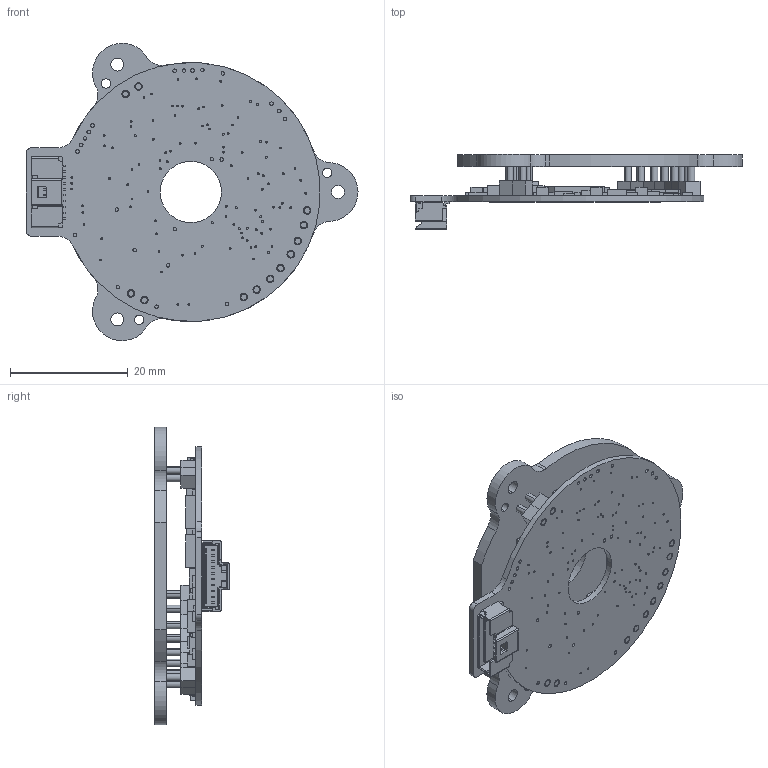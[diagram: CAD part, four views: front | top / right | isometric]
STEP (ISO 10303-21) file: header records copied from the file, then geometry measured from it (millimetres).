
FILE_DESCRIPTION (( 'STEP AP214' ), '1' );
FILE_NAME ('1020-101_Rev1-1_PR2.STEP', '2021-08-05T07:26:36', ( '' ), ( '' ), 'SwSTEP 2.0', 'SolidWorks 2021', '' );
FILE_SCHEMA (( 'AUTOMOTIVE_DESIGN' ));
Length unit declared in the file: millimetre
Products named in the file (54): Copy of 0402_R_0402 10K resistor^Copy of e_1020_revc_1020-101_Rev1-1; Copy of SOT353_R_74AHC1G04GW^Copy of e_1020_revc_1020-101_Rev1-1; Copy of 0402_R_0402 100K resistor^Copy of e_1020_revc_1020-101_Rev1-1; Copy of 0402_R_0402 330R resistor^Copy of e_1020_revc_1020-101_Rev1-1; Copy of 0402_R_0402 33p capacitor^Copy of e_1020_revc_1020-101_Rev1-1; 1020-101_Rev1-1_PR2; Copy of 0402_R_0402 3K resistor^Copy of e_1020_revc_1020-101_Rev1-1; Copy of TSOT23_LT3060ETS83.3^Copy of e_1020_revc_1020-101_Rev1-1; Copy of e_1020_revc^Copy of e_1020_revc_1020-101_Rev1-1; Copy of CSTCE_CSTCE8M00G55Z^Copy of e_1020_revc_1020-101_Rev1-1; Copy of 0603_R_0603 10n capacitor COG 5%^Copy of e_1020_revc_1020-101_Rev1-1; Copy of 0805_R_0805 2u2 50V capacitor^Copy of e_1020_revc_1020-101_Rev1-1; Copy of SOP8_R_SP3072EENL^Copy of e_1020_revc_1020-101_Rev1-1; Copy of 0402_R_0402 10n 50V capacitor^Copy of e_1020_revc_1020-101_Rev1-1; Copy of 0402_R_0402 330K resistor^Copy of e_1020_revc_1020-101_Rev1-1; Copy of LQFP48_STM32F103CBT6^Copy of e_1020_revc_1020-101_Rev1-1; Copy of 0402_R_0402 33R resistor^Copy of e_1020_revc_1020-101_Rev1-1; Copy of 0603_R_0603 10R resistor^Copy of e_1020_revc_1020-101_Rev1-1; Copy of 0805_R_0805 3k3 resistor 0.5W^Copy of e_1020_revc_1020-101_Rev1-1; Copy of SOT23_R_FDV302P^Copy of e_1020_revc_1020-101_Rev1-1; Copy of 0402_R_0402 1K resistor^Copy of e_1020_revc_1020-101_Rev1-1; Copy of 0402_R_0402 6K65 TF resistor^Copy of e_1020_revc_1020-101_Rev1-1; Copy of SOT23_R_FDV301N^Copy of e_1020_revc_1020-101_Rev1-1; Copy of 0402_R_0402 82K resistor^Copy of e_1020_revc_1020-101_Rev1-1; Copy of 0603_R_0603 2u2 10V capacitor^Copy of e_1020_revc_1020-101_Rev1-1; Copy of e_1020_revc^1020-101_Rev1-1; Copy of SOP8_R_SP3077EENL^Copy of e_1020_revc_1020-101_Rev1-1; Copy of moulding^Copy of 2 pin header assembly_1020-101_Rev1-1; 1020-102_Rev1-1; Copy of SOT323_R_BAT54CW^Copy of e_1020_revc_1020-101_Rev1-1; Copy of SOT23 5lead_AD8628ARTZR2^Copy of e_1020_revc_1020-101_Rev1-1; Copy of 0805_L_0805 1uH SIMID inductor^Copy of e_1020_revc_1020-101_Rev1-1; Copy of 2 pin header assembly^1020-101_Rev1-1; Copy of 0402_R_0402 1n 50V capacitor^Copy of e_1020_revc_1020-101_Rev1-1; Copy of 5015681007^1020-101_Rev1-1; Copy of 0402_R_0402 0R0 resistor^Copy of e_1020_revc_1020-101_Rev1-1; Copy of pin^Copy of 2 pin header assembly_1020-101_Rev1-1; Copy of 0612_0612 Quad Resistor 33R^Copy of e_1020_revc_1020-101_Rev1-1; Copy of MSOP_8EP_LT3062EMS8EAdj^Copy of e_1020_revc_1020-101_Rev1-1; Copy of 0402_R_0402 100n 50V capacitor^Copy of e_1020_revc_1020-101_Rev1-1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
Assembly tree (140 placements, depth 3):
  1020-101_Rev1-1_PR2
    1020-102_Rev1-1
    Copy of 2 pin header assembly^1020-101_Rev1-1  x6
      Copy of moulding^Copy of 2 pin header assembly_1020-101_Rev1-1
      Copy of pin^Copy of 2 pin header assembly_1020-101_Rev1-1
    Copy of e_1020_revc^1020-101_Rev1-1
      Copy of e_1020_revc^Copy of e_1020_revc_1020-101_Rev1-1
      Copy of 0805_R_0805 10u 10V capacitor^Copy of e_1020_revc_1020-101_Rev1-1  x6
      Copy of SOT23_R_FDV301N^Copy of e_1020_revc_1020-101_Rev1-1
      Copy of SOT23_R_FDV302P^Copy of e_1020_revc_1020-101_Rev1-1  x2
      Copy of 0402_R_0402 100n 50V capacitor^Copy of e_1020_revc_1020-101_Rev1-1  x18
      Copy of 0402_R_0402 33p capacitor^Copy of e_1020_revc_1020-101_Rev1-1  x8
      Copy of 0402_R_0402 1K resistor^Copy of e_1020_revc_1020-101_Rev1-1  x5
      Copy of CSTCE_CSTCE8M00G55Z^Copy of e_1020_revc_1020-101_Rev1-1
      Copy of 0402_R_0402 330R resistor^Copy of e_1020_revc_1020-101_Rev1-1
      Copy of 0402_R_0402 10n 50V capacitor^Copy of e_1020_revc_1020-101_Rev1-1  x6
      Copy of 0402_BLM15_0402 1K 200mA ferrite^Copy of e_1020_revc_1020-101_Rev1-1  x9
      Copy of 0402_R_0402 0R0 resistor^Copy of e_1020_revc_1020-101_Rev1-1  x4
      Copy of 0805_R_0805 2u2 50V capacitor^Copy of e_1020_revc_1020-101_Rev1-1  x2
      Copy of TSOT23_LT3060ETS83.3^Copy of e_1020_revc_1020-101_Rev1-1
      Copy of LQFP48_STM32F103CBT6^Copy of e_1020_revc_1020-101_Rev1-1
      Copy of SOT23 5lead_LD39015M33R^Copy of e_1020_revc_1020-101_Rev1-1  x2
      Copy of 0603_R_0603 2u2 10V capacitor^Copy of e_1020_revc_1020-101_Rev1-1  x6
      Copy of SC70 Small_SN74LVC1G3157DCKRALT^Copy of e_1020_revc_1020-101_Rev1-1  x12
      Copy of 0805_R_0805 3k3 resistor 0.5W^Copy of e_1020_revc_1020-101_Rev1-1  x2
      Copy of 0603_R_0603 200k TF resistor^Copy of e_1020_revc_1020-101_Rev1-1  x2
      Copy of 0402_R_0402 10K resistor^Copy of e_1020_revc_1020-101_Rev1-1  x2
      Copy of 0612_0612 Quad Resistor 56R^Copy of e_1020_revc_1020-101_Rev1-1
      Copy of 0402_R_0402 3K resistor^Copy of e_1020_revc_1020-101_Rev1-1
      Copy of 0402_R_0402 82K resistor^Copy of e_1020_revc_1020-101_Rev1-1
      Copy of 0612_0612 Quad Resistor 33R^Copy of e_1020_revc_1020-101_Rev1-1  x2
      Copy of 0805_L_0805 1uH SIMID inductor^Copy of e_1020_revc_1020-101_Rev1-1
      Copy of 0402_R_0402 6K65 TF resistor^Copy of e_1020_revc_1020-101_Rev1-1  x4
      Copy of SOP8_R_SP3077EENL^Copy of e_1020_revc_1020-101_Rev1-1
      Copy of SOP8_R_SP3072EENL^Copy of e_1020_revc_1020-101_Rev1-1
      Copy of 0603_R_0603 10n capacitor COG 5%^Copy of e_1020_revc_1020-101_Rev1-1
      Copy of 0603_R_0603 10n capacitor^Copy of e_1020_revc_1020-101_Rev1-1
      Copy of 0603_R_0603 10R resistor^Copy of e_1020_revc_1020-101_Rev1-1
      Copy of SOT353_R_74AHC1G04GW^Copy of e_1020_revc_1020-101_Rev1-1
      Copy of SOT323_R_BAT54CW^Copy of e_1020_revc_1020-101_Rev1-1
      Copy of 0402_R_0402 1n 50V capacitor^Copy of e_1020_revc_1020-101_Rev1-1
      Copy of TSOT23_LT3060ETS8^Copy of e_1020_revc_1020-101_Rev1-1
      Copy of SOT23 5lead_AD8628ARTZR2^Copy of e_1020_revc_1020-101_Rev1-1  x2
      Copy of 0402_R_0402 510K resistor^Copy of e_1020_revc_1020-101_Rev1-1
      Copy of 0402_R_0402 27K resistor^Copy of e_1020_revc_1020-101_Rev1-1  x2
      Copy of 0612_0612 Quad Capacitor 100n^Copy of e_1020_revc_1020-101_Rev1-1
      Copy of 0402_R_0402 1K65 TF resistor^Copy of e_1020_revc_1020-101_Rev1-1  x4
      Copy of 0402_R_0402 33R resistor^Copy of e_1020_revc_1020-101_Rev1-1
      Copy of 0402_R_0402 330K resistor^Copy of e_1020_revc_1020-101_Rev1-1
      Copy of 0402_R_0402 270K resistor^Copy of e_1020_revc_1020-101_Rev1-1
      Copy of 0402_R_0402 100K resistor^Copy of e_1020_revc_1020-101_Rev1-1
      Copy of MSOP_8EP_LT3062EMS8EAdj^Copy of e_1020_revc_1020-101_Rev1-1
      Copy of SOT23 5lead_REF2030AIDDCT^Copy of e_1020_revc_1020-101_Rev1-1
    Copy of 5015681007^1020-101_Rev1-1
Bounding box: 56.4 x 12.7 x 50.53 mm (x, y, z)
Volume: 5853.2 mm3; surface area: 10921.7 mm2
Topology: 153 solids, 153 shells, 1617 faces, 3881 edges, 2580 vertices
Faces by surface type: plane 1163, cylinder 450, cone 4
Entity records: 41274 total; most frequent: DIRECTION 5760, CARTESIAN_POINT 5599, ORIENTED_EDGE 5314, EDGE_CURVE 2657, AXIS2_PLACEMENT_3D 1962, LINE 1836, VECTOR 1836, VERTEX_POINT 1764
